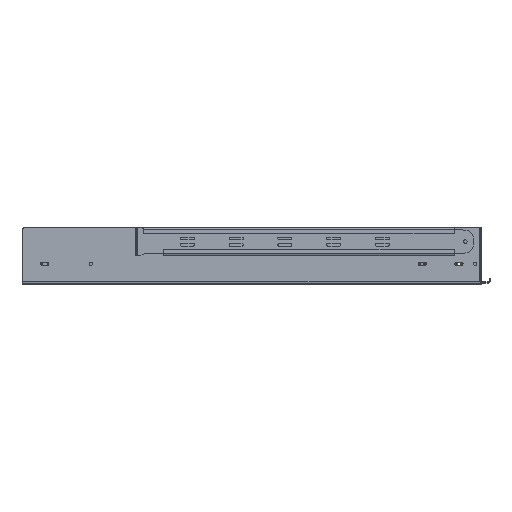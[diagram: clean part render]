
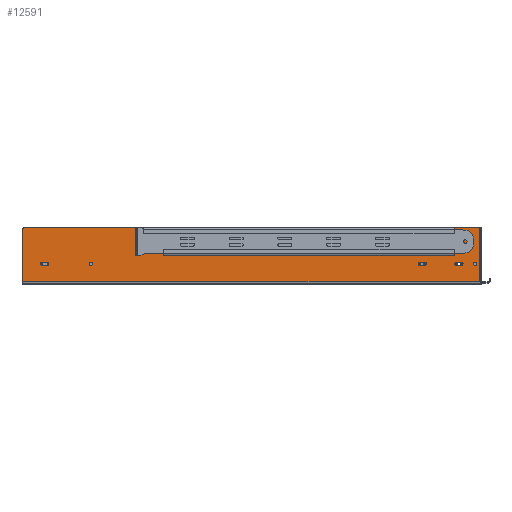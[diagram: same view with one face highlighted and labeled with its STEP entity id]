
A CAD part, top view. The second image highlights one B-rep face of the part: STEP entity #12591.
In plain terms, the highlighted planar face has unit normal (0, 0, 1).
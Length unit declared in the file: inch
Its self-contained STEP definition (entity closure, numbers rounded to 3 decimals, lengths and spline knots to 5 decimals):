
#4062=DIRECTION('',(1.,0.,0.));
#4063=VECTOR('',#4062,28.125);
#4064=CARTESIAN_POINT('',(-14.125,0.047,8.57));
#4065=LINE('',#4064,#4063);
#4084=CARTESIAN_POINT('',(-14.,3.265,8.57));
#4085=DIRECTION('',(0.,0.,1.));
#4086=DIRECTION('',(0.,1.,0.));
#4087=AXIS2_PLACEMENT_3D('',#4084,#4085,#4086);
#4089=DIRECTION('',(-1.,0.,0.));
#4090=VECTOR('',#4089,28.);
#4091=CARTESIAN_POINT('',(14.,3.39,8.57));
#4092=LINE('',#4091,#4090);
#4093=DIRECTION('',(0.,-1.,0.));
#4094=VECTOR('',#4093,3.218);
#4095=CARTESIAN_POINT('',(-14.125,3.265,8.57));
#4096=LINE('',#4095,#4094);
#4097=CARTESIAN_POINT('',(-5.5525,2.531,8.57));
#4098=DIRECTION('',(0.,0.,1.));
#4099=DIRECTION('',(-1.,0.,0.));
#4100=AXIS2_PLACEMENT_3D('',#4097,#4098,#4099);
#4102=CARTESIAN_POINT('',(-5.5525,2.531,8.57));
#4103=DIRECTION('',(0.,0.,1.));
#4104=DIRECTION('',(1.,0.,0.));
#4105=AXIS2_PLACEMENT_3D('',#4102,#4103,#4104);
#4107=CARTESIAN_POINT('',(10.3225,2.531,8.57));
#4108=DIRECTION('',(0.,0.,1.));
#4109=DIRECTION('',(-1.,0.,0.));
#4110=AXIS2_PLACEMENT_3D('',#4107,#4108,#4109);
#4112=CARTESIAN_POINT('',(10.3225,2.531,8.57));
#4113=DIRECTION('',(0.,0.,1.));
#4114=DIRECTION('',(1.,0.,0.));
#4115=AXIS2_PLACEMENT_3D('',#4112,#4113,#4114);
#4117=DIRECTION('',(-1.,0.,0.));
#4118=VECTOR('',#4117,0.282);
#4119=CARTESIAN_POINT('',(-12.611,1.272,8.57));
#4120=LINE('',#4119,#4118);
#4121=CARTESIAN_POINT('',(-12.893,1.163,8.57));
#4122=DIRECTION('',(0.,0.,-1.));
#4123=DIRECTION('',(0.,-1.,0.));
#4124=AXIS2_PLACEMENT_3D('',#4121,#4122,#4123);
#4126=DIRECTION('',(1.,0.,0.));
#4127=VECTOR('',#4126,0.282);
#4128=CARTESIAN_POINT('',(-12.893,1.054,8.57));
#4129=LINE('',#4128,#4127);
#4130=CARTESIAN_POINT('',(-12.611,1.163,8.57));
#4131=DIRECTION('',(0.,0.,-1.));
#4132=DIRECTION('',(0.,1.,0.));
#4133=AXIS2_PLACEMENT_3D('',#4130,#4131,#4132);
#4135=DIRECTION('',(-1.,0.,0.));
#4136=VECTOR('',#4135,0.282);
#4137=CARTESIAN_POINT('',(10.637,1.272,8.57));
#4138=LINE('',#4137,#4136);
#4139=CARTESIAN_POINT('',(10.355,1.163,8.57));
#4140=DIRECTION('',(0.,0.,-1.));
#4141=DIRECTION('',(0.,-1.,0.));
#4142=AXIS2_PLACEMENT_3D('',#4139,#4140,#4141);
#4144=DIRECTION('',(1.,0.,0.));
#4145=VECTOR('',#4144,0.282);
#4146=CARTESIAN_POINT('',(10.355,1.054,8.57));
#4147=LINE('',#4146,#4145);
#4148=CARTESIAN_POINT('',(10.637,1.163,8.57));
#4149=DIRECTION('',(0.,0.,-1.));
#4150=DIRECTION('',(0.,1.,0.));
#4151=AXIS2_PLACEMENT_3D('',#4148,#4149,#4150);
#4153=DIRECTION('',(-1.,0.,0.));
#4154=VECTOR('',#4153,0.282);
#4155=CARTESIAN_POINT('',(12.889,1.272,8.57));
#4156=LINE('',#4155,#4154);
#4157=CARTESIAN_POINT('',(12.607,1.163,8.57));
#4158=DIRECTION('',(0.,0.,-1.));
#4159=DIRECTION('',(0.,-1.,0.));
#4160=AXIS2_PLACEMENT_3D('',#4157,#4158,#4159);
#4162=DIRECTION('',(1.,0.,0.));
#4163=VECTOR('',#4162,0.282);
#4164=CARTESIAN_POINT('',(12.607,1.054,8.57));
#4165=LINE('',#4164,#4163);
#4166=CARTESIAN_POINT('',(12.889,1.163,8.57));
#4167=DIRECTION('',(0.,0.,-1.));
#4168=DIRECTION('',(0.,1.,0.));
#4169=AXIS2_PLACEMENT_3D('',#4166,#4167,#4168);
#4171=CARTESIAN_POINT('',(-9.917,1.163,8.57));
#4172=DIRECTION('',(0.,0.,-1.));
#4173=DIRECTION('',(1.,0.,0.));
#4174=AXIS2_PLACEMENT_3D('',#4171,#4172,#4173);
#4176=CARTESIAN_POINT('',(-9.917,1.163,8.57));
#4177=DIRECTION('',(0.,0.,-1.));
#4178=DIRECTION('',(-1.,0.,0.));
#4179=AXIS2_PLACEMENT_3D('',#4176,#4177,#4178);
#4181=CARTESIAN_POINT('',(13.748,1.163,8.57));
#4182=DIRECTION('',(0.,0.,-1.));
#4183=DIRECTION('',(1.,0.,0.));
#4184=AXIS2_PLACEMENT_3D('',#4181,#4182,#4183);
#4186=CARTESIAN_POINT('',(13.748,1.163,8.57));
#4187=DIRECTION('',(0.,0.,-1.));
#4188=DIRECTION('',(-1.,0.,0.));
#4189=AXIS2_PLACEMENT_3D('',#4186,#4187,#4188);
#4495=DIRECTION('',(0.,1.,0.));
#4496=VECTOR('',#4495,3.343);
#4497=CARTESIAN_POINT('',(14.,0.047,8.57));
#4498=LINE('',#4497,#4496);
#6543=CARTESIAN_POINT('',(-14.125,0.047,8.57));
#6545=VERTEX_POINT('',#6543);
#6587=CARTESIAN_POINT('',(14.,0.047,8.57));
#6588=VERTEX_POINT('',#6587);
#6611=CARTESIAN_POINT('',(14.,3.39,8.57));
#6612=VERTEX_POINT('',#6611);
#6719=CARTESIAN_POINT('',(-14.,3.39,8.57));
#6720=CARTESIAN_POINT('',(-14.125,3.265,8.57));
#6721=VERTEX_POINT('',#6719);
#6722=VERTEX_POINT('',#6720);
#6767=CARTESIAN_POINT('',(10.2075,2.531,8.57));
#6768=CARTESIAN_POINT('',(10.4375,2.531,8.57));
#6769=VERTEX_POINT('',#6767);
#6770=VERTEX_POINT('',#6768);
#6771=CARTESIAN_POINT('',(-5.6675,2.531,8.57));
#6772=CARTESIAN_POINT('',(-5.4375,2.531,8.57));
#6773=VERTEX_POINT('',#6771);
#6774=VERTEX_POINT('',#6772);
#6779=CARTESIAN_POINT('',(13.857,1.163,8.57));
#6780=CARTESIAN_POINT('',(13.639,1.163,8.57));
#6781=VERTEX_POINT('',#6779);
#6782=VERTEX_POINT('',#6780);
#6803=CARTESIAN_POINT('',(-9.808,1.163,8.57));
#6804=CARTESIAN_POINT('',(-10.026,1.163,8.57));
#6805=VERTEX_POINT('',#6803);
#6806=VERTEX_POINT('',#6804);
#6879=CARTESIAN_POINT('',(12.889,1.272,8.57));
#6880=CARTESIAN_POINT('',(12.607,1.272,8.57));
#6881=VERTEX_POINT('',#6879);
#6882=VERTEX_POINT('',#6880);
#6883=CARTESIAN_POINT('',(12.607,1.054,8.57));
#6884=VERTEX_POINT('',#6883);
#6885=CARTESIAN_POINT('',(12.889,1.054,8.57));
#6886=VERTEX_POINT('',#6885);
#6887=CARTESIAN_POINT('',(10.637,1.272,8.57));
#6888=CARTESIAN_POINT('',(10.355,1.272,8.57));
#6889=VERTEX_POINT('',#6887);
#6890=VERTEX_POINT('',#6888);
#6891=CARTESIAN_POINT('',(10.355,1.054,8.57));
#6892=VERTEX_POINT('',#6891);
#6893=CARTESIAN_POINT('',(10.637,1.054,8.57));
#6894=VERTEX_POINT('',#6893);
#6895=CARTESIAN_POINT('',(-12.611,1.272,8.57));
#6896=CARTESIAN_POINT('',(-12.893,1.272,8.57));
#6897=VERTEX_POINT('',#6895);
#6898=VERTEX_POINT('',#6896);
#6899=CARTESIAN_POINT('',(-12.893,1.054,8.57));
#6900=VERTEX_POINT('',#6899);
#6901=CARTESIAN_POINT('',(-12.611,1.054,8.57));
#6902=VERTEX_POINT('',#6901);
#12521=CARTESIAN_POINT('',(-7.4128,-0.078,8.57));
#12522=DIRECTION('',(0.,0.,1.));
#12523=DIRECTION('',(0.,1.,0.));
#12524=AXIS2_PLACEMENT_3D('',#12521,#12522,#12523);
#12525=PLANE('',#12524);
#12527=ORIENTED_EDGE('',*,*,#12526,.F.);
#12529=ORIENTED_EDGE('',*,*,#12528,.F.);
#12531=ORIENTED_EDGE('',*,*,#12530,.F.);
#12532=ORIENTED_EDGE('',*,*,#12510,.F.);
#12534=ORIENTED_EDGE('',*,*,#12533,.F.);
#12535=EDGE_LOOP('',(#12527,#12529,#12531,#12532,#12534));
#12536=FACE_OUTER_BOUND('',#12535,.F.);
#12538=ORIENTED_EDGE('',*,*,#12537,.T.);
#12540=ORIENTED_EDGE('',*,*,#12539,.T.);
#12541=EDGE_LOOP('',(#12538,#12540));
#12542=FACE_BOUND('',#12541,.F.);
#12544=ORIENTED_EDGE('',*,*,#12543,.T.);
#12546=ORIENTED_EDGE('',*,*,#12545,.T.);
#12547=EDGE_LOOP('',(#12544,#12546));
#12548=FACE_BOUND('',#12547,.F.);
#12550=ORIENTED_EDGE('',*,*,#12549,.T.);
#12552=ORIENTED_EDGE('',*,*,#12551,.F.);
#12554=ORIENTED_EDGE('',*,*,#12553,.T.);
#12556=ORIENTED_EDGE('',*,*,#12555,.F.);
#12557=EDGE_LOOP('',(#12550,#12552,#12554,#12556));
#12558=FACE_BOUND('',#12557,.F.);
#12560=ORIENTED_EDGE('',*,*,#12559,.T.);
#12562=ORIENTED_EDGE('',*,*,#12561,.F.);
#12564=ORIENTED_EDGE('',*,*,#12563,.T.);
#12566=ORIENTED_EDGE('',*,*,#12565,.F.);
#12567=EDGE_LOOP('',(#12560,#12562,#12564,#12566));
#12568=FACE_BOUND('',#12567,.F.);
#12570=ORIENTED_EDGE('',*,*,#12569,.T.);
#12572=ORIENTED_EDGE('',*,*,#12571,.F.);
#12574=ORIENTED_EDGE('',*,*,#12573,.T.);
#12576=ORIENTED_EDGE('',*,*,#12575,.F.);
#12577=EDGE_LOOP('',(#12570,#12572,#12574,#12576));
#12578=FACE_BOUND('',#12577,.F.);
#12580=ORIENTED_EDGE('',*,*,#12579,.F.);
#12582=ORIENTED_EDGE('',*,*,#12581,.F.);
#12583=EDGE_LOOP('',(#12580,#12582));
#12584=FACE_BOUND('',#12583,.F.);
#12586=ORIENTED_EDGE('',*,*,#12585,.F.);
#12588=ORIENTED_EDGE('',*,*,#12587,.F.);
#12589=EDGE_LOOP('',(#12586,#12588));
#12590=FACE_BOUND('',#12589,.F.);
#4088=CIRCLE('',#4087,0.125);
#4101=CIRCLE('',#4100,0.115);
#4106=CIRCLE('',#4105,0.115);
#4111=CIRCLE('',#4110,0.115);
#4116=CIRCLE('',#4115,0.115);
#4125=CIRCLE('',#4124,0.109);
#4134=CIRCLE('',#4133,0.109);
#4143=CIRCLE('',#4142,0.109);
#4152=CIRCLE('',#4151,0.109);
#4161=CIRCLE('',#4160,0.109);
#4170=CIRCLE('',#4169,0.109);
#4175=CIRCLE('',#4174,0.109);
#4180=CIRCLE('',#4179,0.109);
#4185=CIRCLE('',#4184,0.109);
#4190=CIRCLE('',#4189,0.109);
#12510=EDGE_CURVE('',#6545,#6588,#4065,.T.);
#12526=EDGE_CURVE('',#6721,#6722,#4088,.T.);
#12528=EDGE_CURVE('',#6612,#6721,#4092,.T.);
#12530=EDGE_CURVE('',#6588,#6612,#4498,.T.);
#12533=EDGE_CURVE('',#6722,#6545,#4096,.T.);
#12537=EDGE_CURVE('',#6773,#6774,#4101,.T.);
#12539=EDGE_CURVE('',#6774,#6773,#4106,.T.);
#12543=EDGE_CURVE('',#6769,#6770,#4111,.T.);
#12545=EDGE_CURVE('',#6770,#6769,#4116,.T.);
#12549=EDGE_CURVE('',#6897,#6898,#4120,.T.);
#12551=EDGE_CURVE('',#6900,#6898,#4125,.T.);
#12553=EDGE_CURVE('',#6900,#6902,#4129,.T.);
#12555=EDGE_CURVE('',#6897,#6902,#4134,.T.);
#12559=EDGE_CURVE('',#6889,#6890,#4138,.T.);
#12561=EDGE_CURVE('',#6892,#6890,#4143,.T.);
#12563=EDGE_CURVE('',#6892,#6894,#4147,.T.);
#12565=EDGE_CURVE('',#6889,#6894,#4152,.T.);
#12569=EDGE_CURVE('',#6881,#6882,#4156,.T.);
#12571=EDGE_CURVE('',#6884,#6882,#4161,.T.);
#12573=EDGE_CURVE('',#6884,#6886,#4165,.T.);
#12575=EDGE_CURVE('',#6881,#6886,#4170,.T.);
#12579=EDGE_CURVE('',#6805,#6806,#4175,.T.);
#12581=EDGE_CURVE('',#6806,#6805,#4180,.T.);
#12585=EDGE_CURVE('',#6781,#6782,#4185,.T.);
#12587=EDGE_CURVE('',#6782,#6781,#4190,.T.);
#12591=ADVANCED_FACE('',(#12536,#12542,#12548,#12558,#12568,#12578,#12584,
#12590),#12525,.T.);
